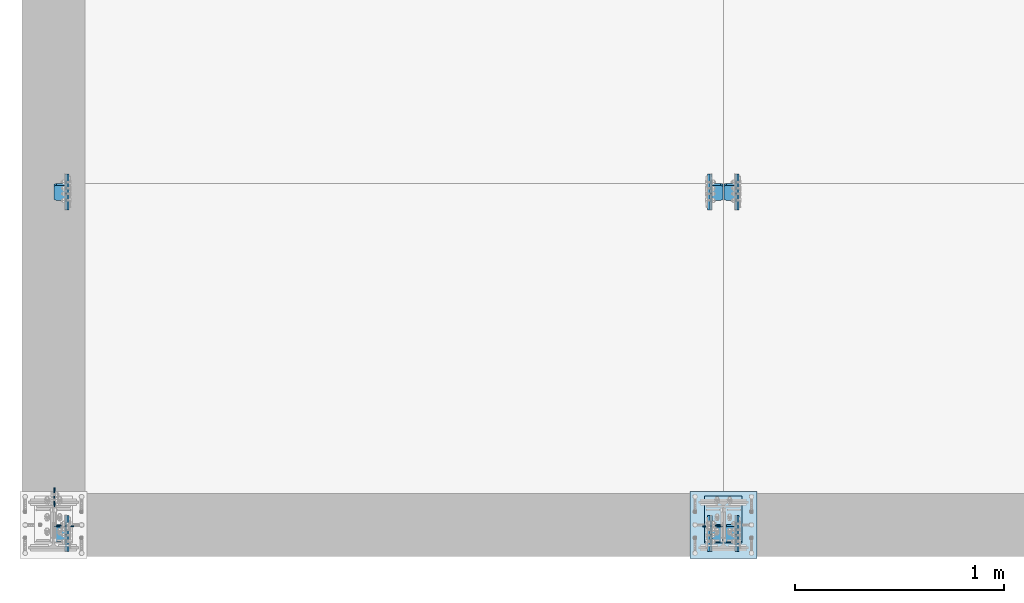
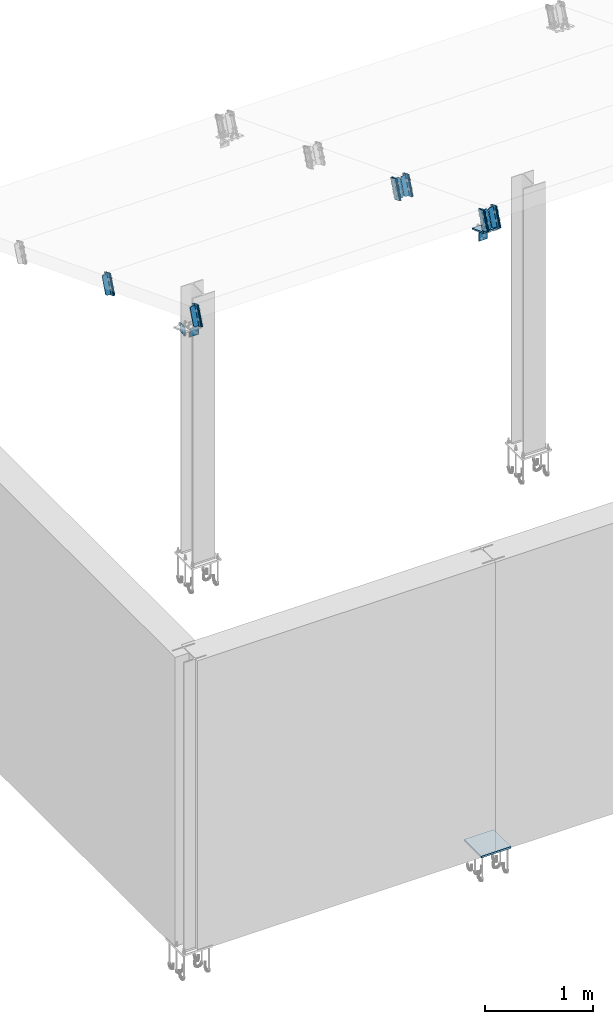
# One storey, part 2 of 72: 23 plates.
"""IFC4 building model written with IfcOpenShell, lengths in metres."""

from ifc_helpers import new_model, si_unit, frame, origin_with_axes, place, context, project, spatial, polyline, outline, extrude, type_object, element, save


model = new_model("IFC4")

# Units and contexts
model_context = context("Model", 3, precision=1e-05, world=origin_with_axes())
ifc_project = project(units=[si_unit("LENGTHUNIT", "METRE"), si_unit("AREAUNIT", "SQUARE_METRE"), si_unit("VOLUMEUNIT", "CUBIC_METRE"), si_unit("MASSUNIT", "GRAM", prefix="KILO"), si_unit("TIMEUNIT", "SECOND"), si_unit("PLANEANGLEUNIT", "RADIAN"), si_unit("SOLIDANGLEUNIT", "STERADIAN"), si_unit("THERMODYNAMICTEMPERATUREUNIT", "DEGREE_CELSIUS")], contexts=[model_context])

# Site, building, storey
placement_1 = place(None, origin_with_axes())
site = spatial("IfcSite", under=ifc_project, at=placement_1, Name="Italia", CompositionType="ELEMENT")
building = spatial("IfcBuilding", under=site, at=placement_1, Name="Uffici", CompositionType="ELEMENT")
storey = spatial("IfcBuildingStorey", under=building, at=placement_1, Name="Storey 0", CompositionType="ELEMENT", Elevation=0.0)

# Plates
plate_type_1 = type_object("IfcPlateType", Name="Collegamento -026_-027", PredefinedType="SHEET")
placement_2 = place(placement_1, origin_with_axes())
plate_1_placement = place(placement_2, origin_with_axes())
element("IfcPlate", 1, at=plate_1_placement, inside=storey, type_object=plate_type_1, Name="Collegamento -026_-027", context=model_context, shape_type="SweptSolid", body=[
    extrude(outline(polyline([(0.0, 0.0), (-0.0932387, -0.0361462), (-0.172761, 0.16898), (-0.0795219, 0.205126), (0.0, 0.0)])), frame((0.065, 1.50719, 6.41961), z_axis=(-1.0, 0.0, 0.0), x_axis=(0.0, -1.0, 0.0)), (0.0, 0.0, 1.0), 0.01),
])
plate_type_2 = type_object("IfcPlateType", Name="Collegamento -026_-027", PredefinedType="SHEET")
plate_2_placement = place(placement_2, origin_with_axes())
element("IfcPlate", 2, at=plate_2_placement, inside=storey, type_object=plate_type_2, Name="Collegamento -026_-027", context=model_context, shape_type="SweptSolid", body=[
    extrude(outline(polyline([(0.0, 0.0), (-0.0932387, -0.0361462), (-0.172761, 0.16898), (-0.0795219, 0.205126), (0.0, 0.0)])), frame((0.075, 1.50719, 6.41961), z_axis=(-1.0, 0.0, 0.0), x_axis=(0.0, -1.0, 0.0)), (0.0, 0.0, 1.0), 0.01),
])
plate_type_3 = type_object("IfcPlateType", Name="Collegamento -026_-027", PredefinedType="SHEET")
plate_3_placement = place(placement_2, origin_with_axes())
element("IfcPlate", 3, at=plate_3_placement, inside=storey, type_object=plate_type_3, Name="Collegamento -026_-027", context=model_context, shape_type="SweptSolid", body=[
    extrude(outline(polyline([(0.0, 0.0), (0.04005, 0.0), (0.05205, 0.0119996), (0.05205, 0.1896), (0.04005, 0.2016), (0.0, 0.2016), (0.0, 0.0)])), frame((0.055, 1.55248, 6.41193), z_axis=(0.0, 0.93237692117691, -0.361487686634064), x_axis=(-1.0, 0.0, 0.0)), (0.0, 0.0, 1.0), 0.0100001),
])
plate_type_4 = type_object("IfcPlateType", Name="Collegamento -027_-026", PredefinedType="SHEET")
plate_4_placement = place(placement_2, origin_with_axes())
element("IfcPlate", 4, at=plate_4_placement, inside=storey, type_object=plate_type_4, Name="Collegamento -027_-026", context=model_context, shape_type="SweptSolid", body=[
    extrude(outline(polyline([(0.0, 0.0), (-0.0932387, 0.0361462), (-0.0137168, 0.241272), (0.0795219, 0.205126), (0.0, 0.0)])), frame((3.14, 1.60043, 6.38347), z_axis=(1.0, 0.0, 0.0), x_axis=(0.0, 1.0, 0.0)), (0.0, 0.0, 1.0), 0.00999999),
])
plate_type_5 = type_object("IfcPlateType", Name="Collegamento -027_-026", PredefinedType="SHEET")
plate_5_placement = place(placement_2, origin_with_axes())
element("IfcPlate", 5, at=plate_5_placement, inside=storey, type_object=plate_type_5, Name="Collegamento -027_-026", context=model_context, shape_type="SweptSolid", body=[
    extrude(outline(polyline([(0.0, 0.0), (-0.0932387, 0.0361462), (-0.0137168, 0.241272), (0.0795219, 0.205126), (0.0, 0.0)])), frame((3.13, 1.60043, 6.38347), z_axis=(1.0, 0.0, 0.0), x_axis=(0.0, 1.0, 0.0)), (0.0, 0.0, 1.0), 0.00999999),
])
plate_type_6 = type_object("IfcPlateType", Name="Collegamento -027_-026", PredefinedType="SHEET")
plate_6_placement = place(placement_2, origin_with_axes())
element("IfcPlate", 6, at=plate_6_placement, inside=storey, type_object=plate_type_6, Name="Collegamento -027_-026", context=model_context, shape_type="SweptSolid", body=[
    extrude(outline(polyline([(0.0, 0.0), (0.04005, 0.0), (0.0520501, 0.0120001), (0.0520501, 0.1896), (0.04005, 0.2016), (0.0, 0.2016), (0.0, 0.0)])), frame((3.15, 1.5618, 6.40831), z_axis=(0.0, -0.93237692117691, 0.361487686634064), x_axis=(1.0, 0.0, 0.0)), (0.0, 0.0, 1.0), 0.0100001),
])
plate_type_7 = type_object("IfcPlateType", Name="Collegamento -027_-028", PredefinedType="SHEET")
plate_7_placement = place(placement_2, origin_with_axes())
element("IfcPlate", 7, at=plate_7_placement, inside=storey, type_object=plate_type_7, Name="Collegamento -027_-028", context=model_context, shape_type="SweptSolid", body=[
    extrude(outline(polyline([(0.0, 0.0), (-0.0932387, -0.0361462), (-0.172761, 0.16898), (-0.0795219, 0.205126), (0.0, 0.0)])), frame((3.27, 1.50719, 6.41961), z_axis=(-1.0, 0.0, 0.0), x_axis=(0.0, -1.0, 0.0)), (0.0, 0.0, 1.0), 0.00999999),
])
plate_type_8 = type_object("IfcPlateType", Name="Collegamento -027_-028", PredefinedType="SHEET")
plate_8_placement = place(placement_2, origin_with_axes())
element("IfcPlate", 8, at=plate_8_placement, inside=storey, type_object=plate_type_8, Name="Collegamento -027_-028", context=model_context, shape_type="SweptSolid", body=[
    extrude(outline(polyline([(0.0, 0.0), (-0.0932387, -0.0361462), (-0.172761, 0.16898), (-0.0795219, 0.205126), (0.0, 0.0)])), frame((3.28, 1.50719, 6.41961), z_axis=(-1.0, 0.0, 0.0), x_axis=(0.0, -1.0, 0.0)), (0.0, 0.0, 1.0), 0.00999999),
])
plate_type_9 = type_object("IfcPlateType", Name="Collegamento -027_-028", PredefinedType="SHEET")
plate_9_placement = place(placement_2, origin_with_axes())
element("IfcPlate", 9, at=plate_9_placement, inside=storey, type_object=plate_type_9, Name="Collegamento -027_-028", context=model_context, shape_type="SweptSolid", body=[
    extrude(outline(polyline([(0.0, 0.0), (0.04005, 0.0), (0.0520501, 0.0119996), (0.0520501, 0.1896), (0.04005, 0.2016), (0.0, 0.2016), (0.0, 0.0)])), frame((3.26, 1.55248, 6.41193), z_axis=(0.0, 0.93237692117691, -0.361487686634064), x_axis=(-1.0, 0.0, 0.0)), (0.0, 0.0, 1.0), 0.0100001),
])
plate_type_10 = type_object("IfcPlateType", Name="Collegamenti 0001_0101 0002_0102 0003_0103 0004_0104 0005_0105 0011_0111 0012_0112 0013_0113 0014_0114 0015_0115", PredefinedType="SHEET")
plate_10_placement = place(placement_2, origin_with_axes())
element("IfcPlate", 10, at=plate_10_placement, inside=storey, type_object=plate_type_10, Name="Collegamenti 0001_0101 0002_0102 0003_0103 0004_0104 0005_0105 0011_0111 0012_0112 0013_0113 0014_0114 0015_0115", context=model_context, shape_type="SweptSolid", body=[
    extrude(outline(polyline([(0.0, 0.0), (0.0, 0.32), (0.32, 0.32), (0.32, 0.0), (0.0, 0.0)])), frame((3.045, -0.16, 0.02), z_axis=(0.0, 0.0, -1.0), x_axis=(0.0, 1.0, 0.0)), (0.0, 0.0, 1.0), 0.02),
])
plate_type_11 = type_object("IfcPlateType", Name="Collegamento 0201_0102", PredefinedType="SHEET")
plate_11_placement = place(placement_2, origin_with_axes())
element("IfcPlate", 11, at=plate_11_placement, inside=storey, type_object=plate_type_11, Name="Collegamento 0201_0102", context=model_context, shape_type="SweptSolid", body=[
    extrude(outline(polyline([(0.0, 0.0), (0.095, -4.76837e-07), (0.095, -0.100001), (0.0, -0.1), (0.0, 0.0)])), frame((0.0979999, -0.0075, 6.98945), z_axis=(0.0, 1.0, 0.0), x_axis=(-1.0, 0.0, 0.0)), (0.0, 0.0, 1.0), 0.005),
])
plate_type_12 = type_object("IfcPlateType", Name="Collegamento 0201_0106", PredefinedType="SHEET")
plate_12_placement = place(placement_2, origin_with_axes())
element("IfcPlate", 12, at=plate_12_placement, inside=storey, type_object=plate_type_12, Name="Collegamento 0201_0106", context=model_context, shape_type="SweptSolid", body=[
    extrude(outline(polyline([(0.0, 0.0), (0.0920001, 0.0), (0.0919999, -0.104), (-1.78814e-07, -0.104), (0.0, 0.0)])), frame((0.0075, 0.1775, 6.94768), z_axis=(-1.0, 0.0, 0.0), x_axis=(0.0, -1.0, 0.0)), (0.0, 0.0, 1.0), 0.005),
])
plate_type_13 = type_object("IfcPlateType", Name="Collegamento 0201_0202", PredefinedType="SHEET")
plate_13_placement = place(placement_2, origin_with_axes())
element("IfcPlate", 13, at=plate_13_placement, inside=storey, type_object=plate_type_13, Name="Collegamento 0201_0202", context=model_context, shape_type="SweptSolid", body=[
    extrude(outline(polyline([(0.0, 0.0), (-0.0932387, -0.0361462), (-0.172762, 0.168983), (-0.0795231, 0.205129), (0.0, 0.0)])), frame((0.065, -0.126141, 7.05295), z_axis=(-1.0, 0.0, 0.0), x_axis=(0.0, -1.0, 0.0)), (0.0, 0.0, 1.0), 0.01),
])
plate_type_14 = type_object("IfcPlateType", Name="Collegamento 0201_0202", PredefinedType="SHEET")
plate_14_placement = place(placement_2, origin_with_axes())
element("IfcPlate", 14, at=plate_14_placement, inside=storey, type_object=plate_type_14, Name="Collegamento 0201_0202", context=model_context, shape_type="SweptSolid", body=[
    extrude(outline(polyline([(0.0, 0.0), (-0.0932387, -0.0361462), (-0.17276, 0.16898), (-0.0795217, 0.205126), (0.0, 0.0)])), frame((0.075, -0.126141, 7.05295), z_axis=(-1.0, 0.0, 0.0), x_axis=(0.0, -1.0, 0.0)), (0.0, 0.0, 1.0), 0.01),
])
plate_type_15 = type_object("IfcPlateType", Name="Collegamento 0201_0202", PredefinedType="SHEET")
plate_15_placement = place(placement_2, origin_with_axes())
element("IfcPlate", 15, at=plate_15_placement, inside=storey, type_object=plate_type_15, Name="Collegamento 0201_0202", context=model_context, shape_type="SweptSolid", body=[
    extrude(outline(polyline([(0.0, 0.0), (0.04005, 0.0), (0.05205, 0.0120006), (0.05205, 0.189601), (0.04005, 0.201601), (0.0, 0.201601), (0.0, 0.0)])), frame((0.055, -0.080857, 7.04526), z_axis=(0.0, 0.932393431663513, -0.36144495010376), x_axis=(-1.0, 0.0, 0.0)), (0.0, 0.0, 1.0), 0.00999993),
])
plate_type_16 = type_object("IfcPlateType", Name="Collegamento 0202_0101", PredefinedType="SHEET")
plate_16_placement = place(placement_2, origin_with_axes())
element("IfcPlate", 16, at=plate_16_placement, inside=storey, type_object=plate_type_16, Name="Collegamento 0202_0101", context=model_context, shape_type="SweptSolid", body=[
    extrude(outline(polyline([(0.0, 0.0), (-0.095, 0.0), (-0.095, -0.1), (2.38419e-07, -0.1), (0.0, 0.0)])), frame((3.107, -0.0075, 6.98945), z_axis=(0.0, 1.0, 0.0), x_axis=(-1.0, 0.0, 0.0)), (0.0, 0.0, 1.0), 0.005),
])
plate_type_17 = type_object("IfcPlateType", Name="Collegamento 0202_0102", PredefinedType="SHEET")
plate_17_placement = place(placement_2, origin_with_axes())
element("IfcPlate", 17, at=plate_17_placement, inside=storey, type_object=plate_type_17, Name="Collegamento 0202_0102", context=model_context, shape_type="SweptSolid", body=[
    extrude(outline(polyline([(0.0, 0.0), (0.18, 0.0), (0.18, -0.23341), (0.0, -0.23341), (0.0, 0.0)])), frame((3.295, -0.0855034, 7.02111), z_axis=(0.0, 0.361523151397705, 0.932363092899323), x_axis=(-1.0, 0.0, 0.0)), (0.0, 0.0, 1.0), 0.0150002),
])
plate_type_18 = type_object("IfcPlateType", Name="Collegamento 0202_0201", PredefinedType="SHEET")
plate_18_placement = place(placement_2, origin_with_axes())
element("IfcPlate", 18, at=plate_18_placement, inside=storey, type_object=plate_type_18, Name="Collegamento 0202_0201", context=model_context, shape_type="SweptSolid", body=[
    extrude(outline(polyline([(0.0, 0.0), (-0.0932387, 0.0361462), (-0.0137157, 0.241275), (0.079523, 0.205129), (0.0, 0.0)])), frame((3.14, -0.0329024, 7.0168), z_axis=(1.0, 0.0, 0.0), x_axis=(0.0, 1.0, 0.0)), (0.0, 0.0, 1.0), 0.00999999),
])
plate_type_19 = type_object("IfcPlateType", Name="Collegamento 0202_0201", PredefinedType="SHEET")
plate_19_placement = place(placement_2, origin_with_axes())
element("IfcPlate", 19, at=plate_19_placement, inside=storey, type_object=plate_type_19, Name="Collegamento 0202_0201", context=model_context, shape_type="SweptSolid", body=[
    extrude(outline(polyline([(0.0, 0.0), (-0.0932387, 0.0361462), (-0.013717, 0.241272), (0.0795217, 0.205126), (0.0, 0.0)])), frame((3.13, -0.0329024, 7.0168), z_axis=(1.0, 0.0, 0.0), x_axis=(0.0, 1.0, 0.0)), (0.0, 0.0, 1.0), 0.00999999),
])
plate_type_20 = type_object("IfcPlateType", Name="Collegamento 0202_0201", PredefinedType="SHEET")
plate_20_placement = place(placement_2, origin_with_axes())
element("IfcPlate", 20, at=plate_20_placement, inside=storey, type_object=plate_type_20, Name="Collegamento 0202_0201", context=model_context, shape_type="SweptSolid", body=[
    extrude(outline(polyline([(0.0, 0.0), (0.04005, 0.0), (0.0520501, 0.0119996), (0.0520501, 0.1896), (0.04005, 0.201601), (0.0, 0.201601), (0.0, 0.0)])), frame((3.15, -0.0715331, 7.04165), z_axis=(0.0, -0.932393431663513, 0.36144495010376), x_axis=(1.0, 0.0, 0.0)), (0.0, 0.0, 1.0), 0.00999993),
])
plate_type_21 = type_object("IfcPlateType", Name="Collegamento 0202_0203", PredefinedType="SHEET")
plate_21_placement = place(placement_2, origin_with_axes())
element("IfcPlate", 21, at=plate_21_placement, inside=storey, type_object=plate_type_21, Name="Collegamento 0202_0203", context=model_context, shape_type="SweptSolid", body=[
    extrude(outline(polyline([(0.0, 0.0), (-0.0932387, -0.0361462), (-0.172762, 0.168983), (-0.0795231, 0.205129), (0.0, 0.0)])), frame((3.27, -0.126141, 7.05295), z_axis=(-1.0, 0.0, 0.0), x_axis=(0.0, -1.0, 0.0)), (0.0, 0.0, 1.0), 0.00999999),
])
plate_type_22 = type_object("IfcPlateType", Name="Collegamento 0202_0203", PredefinedType="SHEET")
plate_22_placement = place(placement_2, origin_with_axes())
element("IfcPlate", 22, at=plate_22_placement, inside=storey, type_object=plate_type_22, Name="Collegamento 0202_0203", context=model_context, shape_type="SweptSolid", body=[
    extrude(outline(polyline([(0.0, 0.0), (-0.0932387, -0.0361462), (-0.17276, 0.16898), (-0.0795217, 0.205126), (0.0, 0.0)])), frame((3.28, -0.126141, 7.05295), z_axis=(-1.0, 0.0, 0.0), x_axis=(0.0, -1.0, 0.0)), (0.0, 0.0, 1.0), 0.00999999),
])
plate_type_23 = type_object("IfcPlateType", Name="Collegamento 0202_0203", PredefinedType="SHEET")
plate_23_placement = place(placement_2, origin_with_axes())
element("IfcPlate", 23, at=plate_23_placement, inside=storey, type_object=plate_type_23, Name="Collegamento 0202_0203", context=model_context, shape_type="SweptSolid", body=[
    extrude(outline(polyline([(0.0, 0.0), (0.04005, 0.0), (0.0520501, 0.0120006), (0.0520501, 0.189601), (0.04005, 0.201601), (0.0, 0.201601), (0.0, 0.0)])), frame((3.26, -0.080857, 7.04526), z_axis=(0.0, 0.932393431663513, -0.36144495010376), x_axis=(-1.0, 0.0, 0.0)), (0.0, 0.0, 1.0), 0.00999993),
])

save(model, "model.ifc")
